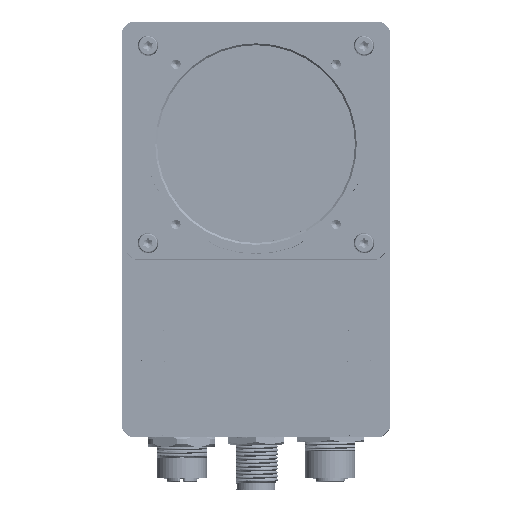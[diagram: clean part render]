
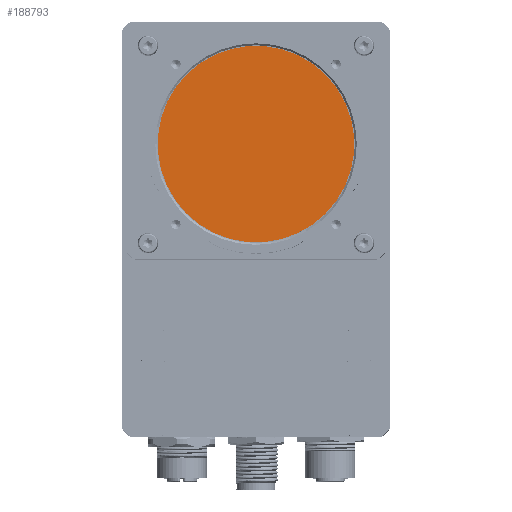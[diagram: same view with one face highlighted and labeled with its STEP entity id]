
A CAD part, top view. The second image highlights one B-rep face of the part: STEP entity #188793.
In plain terms, the highlighted planar face has unit normal (0, 0, 1).
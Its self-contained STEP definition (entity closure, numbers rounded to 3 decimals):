
#8847 = EDGE_CURVE ( 'NONE', #228276, #80912, #123370, .T. ) ;
#23140 = ORIENTED_EDGE ( 'NONE', *, *, #55824, .T. ) ;
#24594 = EDGE_LOOP ( 'NONE', ( #23140, #199354 ) ) ;
#28910 = AXIS2_PLACEMENT_3D ( 'NONE', #62047, #197298, #179492 ) ;
#36118 = PLANE ( 'NONE',  #215091 ) ;
#55824 = EDGE_CURVE ( 'NONE', #80912, #228276, #122008, .T. ) ;
#62047 = CARTESIAN_POINT ( 'NONE',  ( 0., 27., 74.9 ) ) ;
#62364 = DIRECTION ( 'NONE',  ( 0.996, -0.094, 0. ) ) ;
#70477 = FACE_OUTER_BOUND ( 'NONE', #24594, .T. ) ;
#71653 = DIRECTION ( 'NONE',  ( 0., 0., 1. ) ) ;
#80912 = VERTEX_POINT ( 'NONE', #157746 ) ;
#114262 = CARTESIAN_POINT ( 'NONE',  ( 26.384, 24.52, 74.9 ) ) ;
#115569 = DIRECTION ( 'NONE',  ( 0., 0., 1. ) ) ;
#122008 = CIRCLE ( 'NONE', #216537, 26.5 ) ;
#123370 = CIRCLE ( 'NONE', #28910, 26.5 ) ;
#143762 = DIRECTION ( 'NONE',  ( 0.996, -0.094, 0. ) ) ;
#157746 = CARTESIAN_POINT ( 'NONE',  ( -26.384, 29.48, 74.9 ) ) ;
#179492 = DIRECTION ( 'NONE',  ( 0.996, -0.094, 0. ) ) ;
#188793 = ADVANCED_FACE ( 'NONE', ( #70477 ), #36118, .T. ) ;
#197298 = DIRECTION ( 'NONE',  ( 0., 0., 1. ) ) ;
#199354 = ORIENTED_EDGE ( 'NONE', *, *, #8847, .T. ) ;
#205512 = CARTESIAN_POINT ( 'NONE',  ( 0., 27., 74.9 ) ) ;
#215091 = AXIS2_PLACEMENT_3D ( 'NONE', #219452, #71653, #143762 ) ;
#216537 = AXIS2_PLACEMENT_3D ( 'NONE', #205512, #115569, #62364 ) ;
#219452 = CARTESIAN_POINT ( 'NONE',  ( 0., 27., 74.9 ) ) ;
#228276 = VERTEX_POINT ( 'NONE', #114262 ) ;
